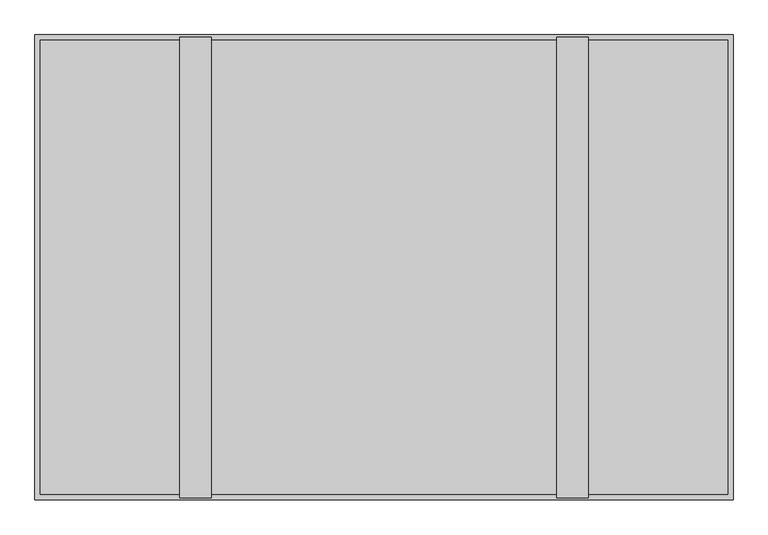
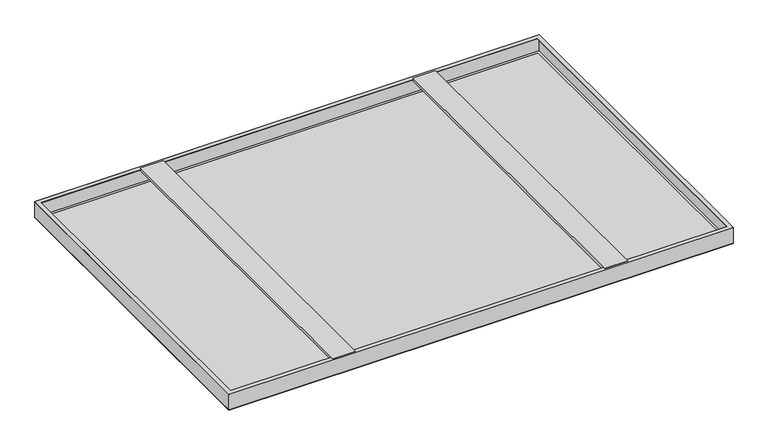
"""IFC4 building model written with IfcOpenShell, lengths in millimetres: proxy geometry, durlum_dur_SOLO_TYPE2_panel : durlum_dur_SOLO_TYPE2_panel."""

from ifc_helpers import new_model, si_unit, frame, origin, origin_with_axes, place, context, project, spatial, polyline, outline, extrude, source, transform, mapped, element, save


def generic_models_629f62d5(model_context):
    return source(origin(), model_context, "Body", "SweptSolid", [
        extrude(outline(polyline([(50.0, 371.1818895), (41.2547795, 371.1818895), (41.2547795, 373.7012938), (47.2031398, 373.7012938), (47.2031398, 436.2987062), (41.2547795, 436.2987062), (41.2547795, 438.8181105), (50.0, 438.8181105), (50.0, 371.1818895)])), frame((0.0, -495.0, 0.0), z_axis=(0.0, 1.0, 0.0), x_axis=(0.0, 0.0, 1.0)), (0.0, 0.0, 1.0), 990.0),
        extrude(outline(polyline([(50.0, -438.8181105), (41.2547795, -438.8181105), (41.2547795, -436.2987062), (47.2031398, -436.2987062), (47.2031398, -373.7012938), (41.2547795, -373.7012938), (41.2547795, -371.1818895), (50.0, -371.1818895), (50.0, -438.8181105)])), frame((0.0, -495.0, 0.0), z_axis=(0.0, 1.0, 0.0), x_axis=(0.0, 0.0, 1.0)), (0.0, 0.0, 1.0), 990.0),
        extrude(outline(polyline([(750.0, 500.0), (750.0, -500.0), (-750.0, -500.0), (-750.0, 500.0), (750.0, 500.0)]), holes=[polyline([(-738.0, 488.0), (-738.0, -488.0), (738.0, -488.0), (738.0, 488.0), (-738.0, 488.0)])]), frame((0.0, 0.0, 49.4), z_axis=(0.0, 0.0, 1.0), x_axis=(1.0, 0.0, 0.0)), (0.0, 0.0, 1.0), 0.6),
        extrude(outline(polyline([(750.0, 500.0), (750.0, -500.0), (-750.0, -500.0), (-750.0, 500.0), (750.0, 500.0)]), holes=[polyline([(749.4, 499.4), (-749.4, 499.4), (-749.4, -499.4), (749.4, -499.4), (749.4, 499.4)])]), frame((0.0, 0.0, 0.6), z_axis=(0.0, 0.0, 1.0), x_axis=(1.0, 0.0, 0.0)), (0.0, 0.0, 1.0), 49.4),
        extrude(outline(polyline([(741.0, 491.0), (741.0, -491.0), (-741.0, -491.0), (-741.0, 491.0), (741.0, 491.0)])), frame((0.0, 0.0, 0.6), z_axis=(0.0, 0.0, 1.0), x_axis=(1.0, 0.0, 0.0)), (0.0, 0.0, 1.0), 0.6),
        extrude(outline(polyline([(750.0, 500.0), (750.0, -500.0), (-750.0, -500.0), (-750.0, 500.0), (750.0, 500.0)]), holes=[polyline([(741.0, 491.0), (-741.0, 491.0), (-741.0, -491.0), (741.0, -491.0), (741.0, 491.0)])]), origin_with_axes(), (0.0, 0.0, 1.0), 0.6),
        extrude(outline(polyline([(741.0, 491.0), (741.0, -491.0), (-741.0, -491.0), (-741.0, 491.0), (741.0, 491.0)])), origin_with_axes(), (0.0, 0.0, 1.0), 0.6),
    ])


if __name__ == "__main__":
    model = new_model("IFC4")
    model_context = context("Model", 3, world=origin())
    ifc_project = project(units=[si_unit("LENGTHUNIT", "METRE", prefix="MILLI")], contexts=[model_context])
    site = spatial("IfcSite", under=ifc_project)
    building = spatial("IfcBuilding", under=site)
    placement = place(None, origin())
    generic_models_shape = generic_models_629f62d5(model_context)
    element("IfcBuildingElementProxy", 1, Name="durlum_dur_SOLO_TYPE2_panel : durlum_dur_SOLO_TYPE2_panel", ObjectType="durlum_dur_SOLO_TYPE2_panel : durlum_dur_SOLO_TYPE2_panel", at=placement, inside=building, context=model_context, shape_type="MappedRepresentation", body=[
        mapped(generic_models_shape, transform((0.0, 0.0, 0.0), x_axis=(1.0, 0.0, 0.0), y_axis=(0.0, 1.0, 0.0), z_axis=(0.0, 0.0, 1.0))),
    ])
    save(model, "model.ifc")
